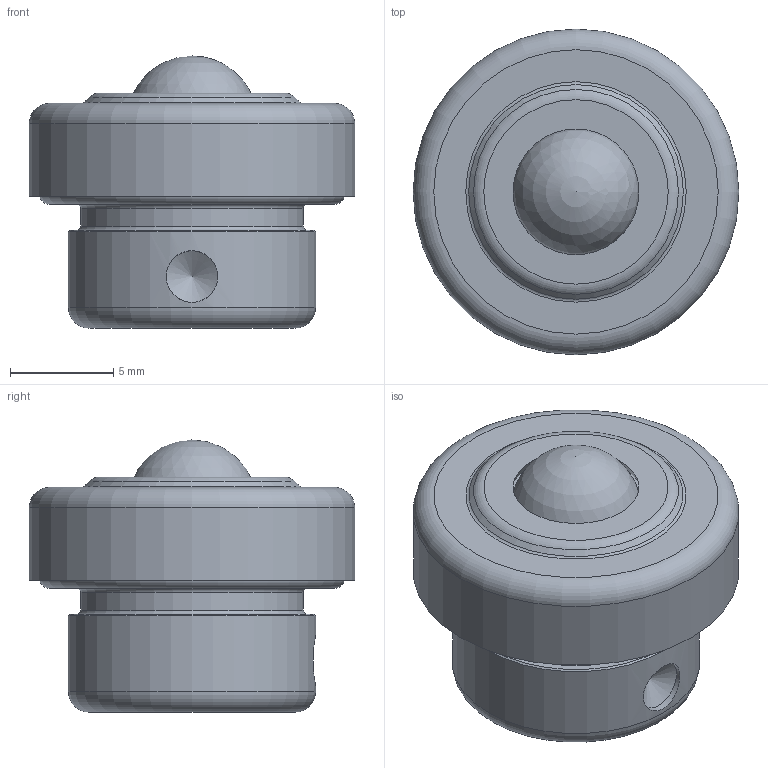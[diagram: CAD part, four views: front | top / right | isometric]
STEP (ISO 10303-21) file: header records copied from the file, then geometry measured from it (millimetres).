
FILE_DESCRIPTION(/* description */ (''),/* implementation_level */ '2;1');
FILE_NAME(/* name */ 'Z:\80-CAD共有ファイル\製品3D\X2\30C730FC30BF\X0\\21-S\S-06.stp',/* time_stamp */ '2015-01-06T16:03:12+09:00',/* author */ ('yamaki'),/* organization */ (''),/* preprocessor_version */ 'ST-DEVELOPER v15.6',/* originating_system */ 'Autodesk Inventor 2015',/* authorisation */ '');
FILE_SCHEMA (('AUTOMOTIVE_DESIGN { 1 0 10303 214 3 1 1 }'));
Length unit declared in the file: millimetre
Products named in the file (3): 2106AT-01; 0635; 2106AT
Bounding box: 15.8 x 15.8 x 13.2 mm (x, y, z)
Volume: 1635.1 mm3; surface area: 1058.4 mm2
Topology: 2 solids, 2 shells, 27 faces, 53 edges, 32 vertices
Faces by surface type: plane 7, torus 7, cone 6, cylinder 5, sphere 2
Full cylindrical faces by diameter (mm): 2.5 x1, 10.8 x1, 12 x1, 14.8 x1, 15.8 x1
Entity records: 636 total; most frequent: CARTESIAN_POINT 119, DIRECTION 112, AXIS2_PLACEMENT_3D 56, ORIENTED_EDGE 52, EDGE_LOOP 50, ADVANCED_FACE 27, FACE_OUTER_BOUND 26, VERTEX_POINT 26
